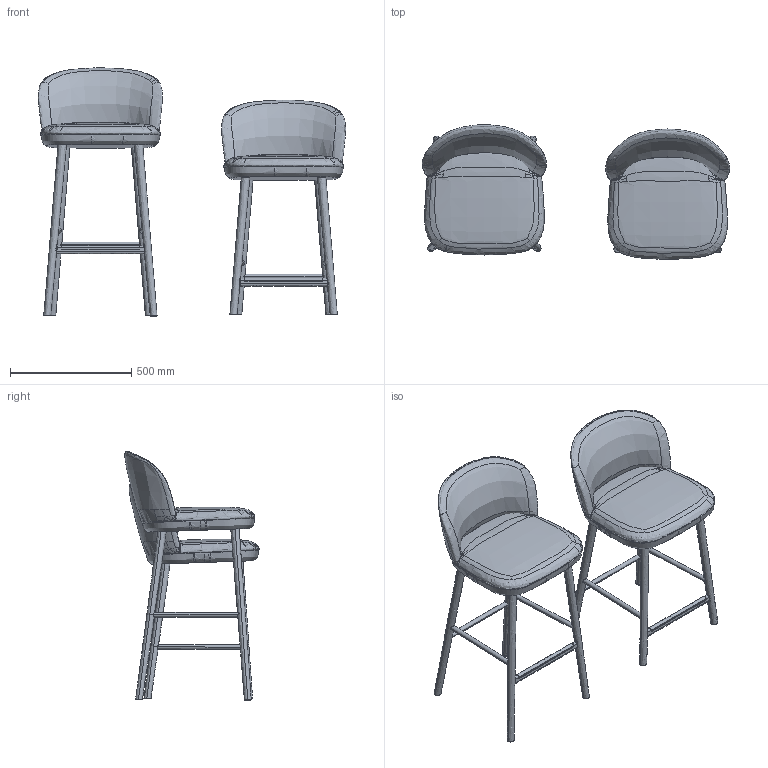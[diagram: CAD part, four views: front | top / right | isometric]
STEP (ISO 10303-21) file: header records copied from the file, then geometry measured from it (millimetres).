
FILE_DESCRIPTION(/* description */ (''),/* implementation_level */ '2;1');
FILE_NAME(/* name */ 'PAD_SGABELLO-STOOL PER SITO',/* time_stamp */ '2026-09-23T15:20:58+02:00',/* author */ (''),/* organization */ (''),/* preprocessor_version */ 'ST-DEVELOPER v19.2',/* originating_system */ 'Rhino 8.11',/* authorisation */ '');
FILE_SCHEMA (('CONFIG_CONTROL_DESIGN'));
Length unit declared in the file: millimetre
Products named in the file (1): Document
Bounding box: 1266.19 x 553.49 x 1022.63 mm (x, y, z)
Volume: 53870902.6 mm3; surface area: 3255571.1 mm2
Topology: 18 solids, 28 shells, 448 faces, 1102 edges, 708 vertices
Faces by surface type: bspline 448
Entity records: 76855 total; most frequent: CARTESIAN_POINT 61440, B_SPLINE_CURVE_WITH_KNOTS 2578, ORIENTED_EDGE 2124, PCURVE 2124, DEFINITIONAL_REPRESENTATION 2124, SURFACE_CURVE 1092, EDGE_CURVE 1092, DIRECTION 736
